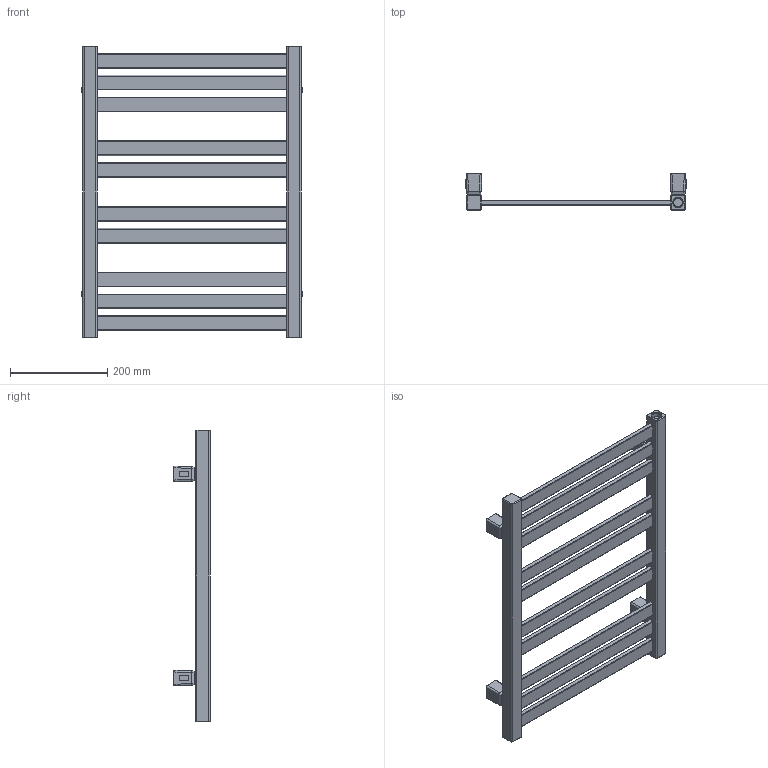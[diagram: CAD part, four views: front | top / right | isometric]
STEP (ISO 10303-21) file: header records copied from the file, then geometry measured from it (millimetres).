
FILE_DESCRIPTION((''),'2;1');
FILE_NAME('Z:\R\G\P\RGPH09 - Grzejnik Marlin\Work\Inventor\Grzejnik Marlin v3.0\Marketing\AutoCad 3D\MR-600-450-SX_MKT.stp','2012-07-25T08:01:25',('PioRo'),(''),'Autodesk Inventor 2012','Autodesk Inventor 2012','');
FILE_SCHEMA(('AUTOMOTIVE_DESIGN { 1 0 10303 214 1 1 1 1 }'));
Length unit declared in the file: millimetre
Products named in the file (3): MR-600-450-SX_MKT; MKT42-00-A v0.2
Assembly tree (5 placements, depth 2):
  MR-600-450-SX_MKT
    MR-600-450-SX_MKT
    MKT42-00-A v0.2  x4
Bounding box: 453.98 x 74.5 x 600 mm (x, y, z)
Volume: 2382521.8 mm3; surface area: 471962.3 mm2
Topology: 5 solids, 5 shells, 417 faces, 1027 edges, 649 vertices
Faces by surface type: cylinder 175, plane 167, bspline 60, torus 11, cone 4
Full cylindrical faces by diameter (mm): 4.134 x4, 10 x4, 12 x4, 18.631 x3
Entity records: 7917 total; most frequent: CARTESIAN_POINT 2463, DIRECTION 1152, ORIENTED_EDGE 1070, EDGE_CURVE 535, AXIS2_PLACEMENT_3D 432, VERTEX_POINT 351, VECTOR 288, LINE 288
